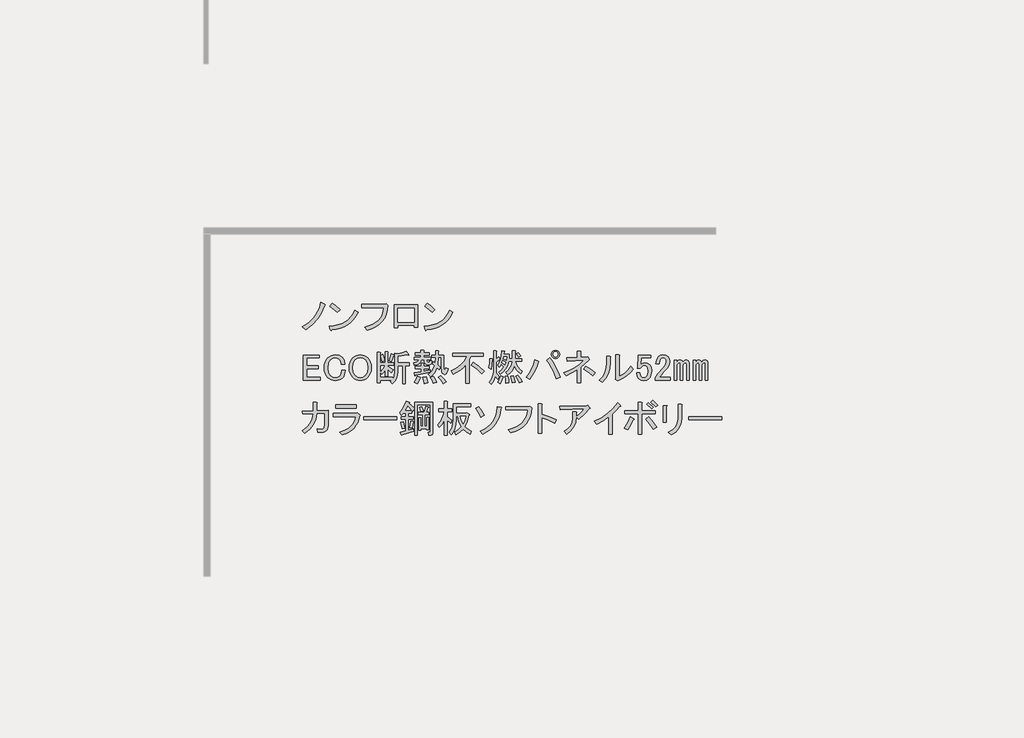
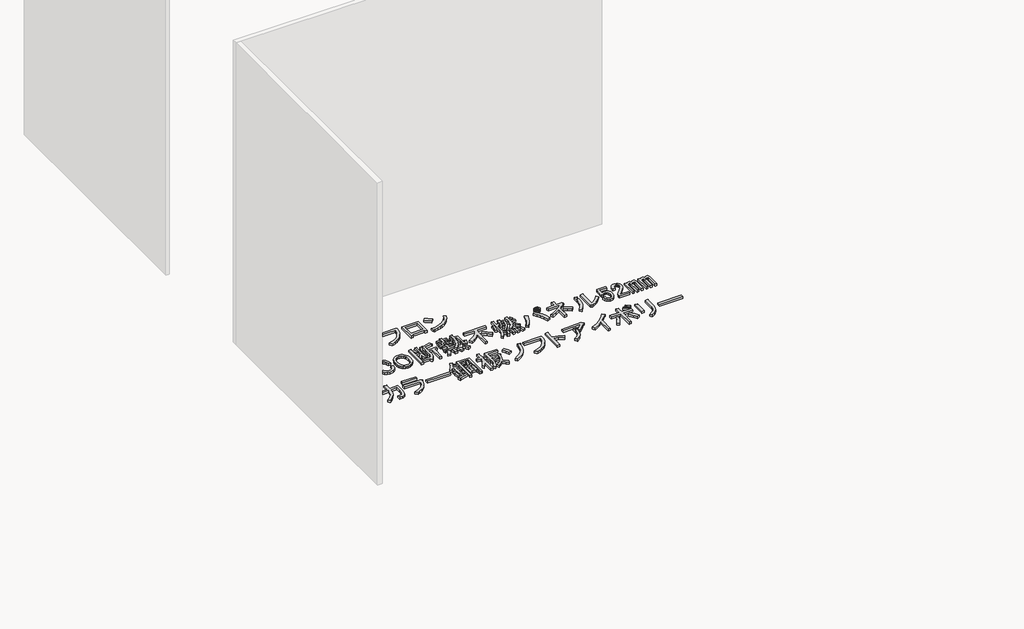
# One storey, part 93 of 117: 1 proxy.
"""IFC4 building model written with IfcOpenShell, lengths in millimetres."""

from ifc_helpers import new_model, si_unit, frame, origin, place, context, project, spatial, polyline, outline, extrude, element, save

model = new_model("IFC4")

# Units and contexts
model_context = context("Model", 3, world=origin())
ifc_project = project(units=[si_unit("LENGTHUNIT", "METRE", prefix="MILLI")], contexts=[model_context])

# Site, building, storey
site = spatial("IfcSite", under=ifc_project)
building = spatial("IfcBuilding", under=site)
storey = spatial("IfcBuildingStorey", under=building, Name="レベル 1", Elevation=500.0)

# Proxy
placement = place(None, origin())
element("IfcBuildingElementProxy", 1, Name="200㎜\u3000MS Pゴシック", ObjectType="200㎜\u3000MS Pゴシック", at=placement, inside=storey, context=model_context, shape_type="SweptSolid", body=[
    extrude(outline(polyline([(24944.6706985, 7391.9503118), (24919.0952502, 7332.1784775), (24890.646156, 7286.2001434), (24848.9782907, 7240.7965385), (24799.8389462, 7203.439142), (24772.2519457, 7225.2788507), (24819.9544673, 7255.7394971), (24859.6107805, 7294.2463519), (24876.9963381, 7318.1694538), (24892.3703435, 7346.2593423), (24905.7327969, 7378.5160173), (24917.0836981, 7414.9394788), (24948.1190736, 7401.1459786), (24951.2800841, 7396.5481452), (24944.6706985, 7391.9503118)])), frame((0.0, 0.0, 500.0), z_axis=(0.0, 0.0, 1.0), x_axis=(1.0, 0.0, 0.0)), (0.0, 0.0, 1.0), 25.0),
    extrude(outline(polyline([(25044.3977052, 7336.7763109), (24985.7753292, 7383.9041033), (25005.3161212, 7408.0427287), (25032.6157571, 7388.2145721), (25066.2374138, 7358.6160196), (25044.3977052, 7336.7763109)])), frame((0.0, 0.0, 500.0), z_axis=(0.0, 0.0, 1.0), x_axis=(1.0, 0.0, 0.0)), (0.0, 0.0, 1.0), 25.0),
    extrude(outline(polyline([(25206.4713328, 7336.7763109), (25189.947869, 7307.034076), (25170.8381239, 7281.0275808), (25149.1420975, 7258.7568252), (25124.8597898, 7240.2218093), (25097.9912008, 7225.422533), (25068.5363306, 7214.3589964), (25036.495179, 7207.0311994), (25001.8677461, 7203.439142), (24996.1204544, 7195.3929336), (24990.3731626, 7201.1402253), (24981.1774958, 7231.0261425), (25017.0082679, 7233.7022252), (25049.7857912, 7240.0062859), (25079.5100658, 7249.9383244), (25106.1810916, 7263.4983409), (25129.7988687, 7280.6863354), (25150.363397, 7301.5023077), (25167.8746766, 7325.946258), (25182.3327074, 7354.0181862), (25206.4713328, 7336.7763109)])), frame((0.0, 0.0, 500.0), z_axis=(0.0, 0.0, 1.0), x_axis=(1.0, 0.0, 0.0)), (0.0, 0.0, 1.0), 25.0),
    extrude(outline(polyline([(25257.2314136, 7221.8304757), (25291.014713, 7231.5110702), (25320.5234641, 7243.8857078), (25345.757667, 7258.9543884), (25366.7173217, 7276.717112), (25383.402428, 7297.1738786), (25395.8129862, 7320.3246882), (25403.9489961, 7346.1695409), (25407.8104577, 7374.7084365), (25235.3917049, 7374.7084365), (25235.3917049, 7399.9965202), (25410.1093744, 7399.9965202), (25426.2017914, 7403.4448953), (25438.8458332, 7391.9503118), (25435.325617, 7355.4550091), (25427.0638851, 7322.4080815), (25414.0606375, 7292.8095289), (25396.3158742, 7266.6593514), (25373.8295952, 7243.957549), (25346.6018005, 7224.7041216), (25314.6324901, 7208.8990692), (25277.921664, 7196.5423919), (25257.2314136, 7221.8304757)])), frame((0.0, 0.0, 500.0), z_axis=(0.0, 0.0, 1.0), x_axis=(1.0, 0.0, 0.0)), (0.0, 0.0, 1.0), 25.0),
    extrude(outline(polyline([(25671.955987, 7222.979934), (25645.5184449, 7222.979934), (25645.5184449, 7235.6239759), (25517.9285679, 7235.6239759), (25517.9285679, 7217.2326423), (25491.4910258, 7217.2326423), (25491.4910258, 7396.5481452), (25671.955987, 7396.5481452), (25671.955987, 7222.979934)]), holes=[polyline([(25517.9285679, 7371.2600614), (25517.9285679, 7260.9120596), (25645.5184449, 7260.9120596), (25645.5184449, 7371.2600614), (25517.9285679, 7371.2600614)])]), frame((0.0, 0.0, 500.0), z_axis=(0.0, 0.0, 1.0), x_axis=(1.0, 0.0, 0.0)), (0.0, 0.0, 1.0), 25.0),
    extrude(outline(polyline([(25948.0099049, 7336.7763109), (25931.4864411, 7307.034076), (25912.376696, 7281.0275808), (25890.6806696, 7258.7568252), (25866.3983619, 7240.2218093), (25839.5297729, 7225.422533), (25810.0749026, 7214.3589964), (25778.0337511, 7207.0311994), (25743.4063182, 7203.439142), (25737.6590264, 7195.3929336), (25731.9117347, 7201.1402253), (25722.7160679, 7231.0261425), (25758.5468399, 7233.7022252), (25791.3243633, 7240.0062859), (25821.0486378, 7249.9383244), (25847.7196637, 7263.4983409), (25871.3374407, 7280.6863354), (25891.9019691, 7301.5023077), (25909.4132486, 7325.946258), (25923.8712795, 7354.0181862), (25948.0099049, 7336.7763109)])), frame((0.0, 0.0, 500.0), z_axis=(0.0, 0.0, 1.0), x_axis=(1.0, 0.0, 0.0)), (0.0, 0.0, 1.0), 25.0),
    extrude(outline(polyline([(25785.9362772, 7336.7763109), (25727.3139013, 7383.9041033), (25746.8546933, 7408.0427287), (25774.1543291, 7388.2145721), (25807.7759859, 7358.6160196), (25785.9362772, 7336.7763109)])), frame((0.0, 0.0, 500.0), z_axis=(0.0, 0.0, 1.0), x_axis=(1.0, 0.0, 0.0)), (0.0, 0.0, 1.0), 25.0),
    extrude(outline(polyline([(24777.9992375, 7003.4448953), (24904.4396562, 7003.4448953), (24904.4396562, 6981.6051866), (24804.4367796, 6981.6051866), (24804.4367796, 6920.683894), (24897.5429061, 6920.683894), (24897.5429061, 6898.8441853), (24804.4367796, 6898.8441853), (24804.4367796, 6828.7272258), (24910.186948, 6828.7272258), (24910.186948, 6806.8875171), (24777.9992375, 6806.8875171), (24777.9992375, 7003.4448953)])), frame((0.0, 0.0, 500.0), z_axis=(0.0, 0.0, 1.0), x_axis=(1.0, 0.0, 0.0)), (0.0, 0.0, 1.0), 25.0),
    extrude(outline(polyline([(24942.2798252, 6904.591477), (24944.0758538, 6928.514579), (24949.4639399, 6949.7077173), (24958.4440832, 6968.1708921), (24971.016284, 6983.9041033), (24996.0170031, 7000.2838848), (25027.3397432, 7005.743812), (25058.0877541, 7000.858614), (25081.3642858, 6986.20302), (25097.1693381, 6962.6391238), (25103.2039944, 6933.3279358), (25075.616994, 6933.3279358), (25070.731796, 6954.5929153), (25060.6740354, 6970.1106031), (25045.4437123, 6980.4557283), (25027.3397432, 6983.9041033), (25007.7989512, 6979.8809991), (24990.5570759, 6967.8116864), (24981.5050914, 6956.1015794), (24975.0393882, 6941.6615089), (24969.8668256, 6904.591477), (24975.0393882, 6867.5214452), (24981.5050914, 6853.0813746), (24990.5570759, 6841.3712677), (25007.2242221, 6830.1640487), (25027.3397432, 6826.4283091), (25047.742629, 6829.5893196), (25062.9729521, 6839.072351), (25075.0422648, 6858.6131429), (25079.0653691, 6885.050685), (25106.6523695, 6885.050685), (25100.3303486, 6850.2795699), (25093.2899162, 6836.1268639), (25083.6632025, 6824.1293924), (25072.8151893, 6815.5802959), (25059.8119417, 6809.4737984), (25027.3397432, 6804.5886004), (24996.0170031, 6810.0485276), (24971.016284, 6826.4283091), (24958.4440832, 6842.0896791), (24949.4639399, 6860.3373305), (24944.0758538, 6881.1712631), (24942.2798252, 6904.591477)])), frame((0.0, 0.0, 500.0), z_axis=(0.0, 0.0, 1.0), x_axis=(1.0, 0.0, 0.0)), (0.0, 0.0, 1.0), 25.0),
    extrude(outline(polyline([(25137.6417667, 6905.7409354), (25139.3659542, 6928.5864201), (25144.5385168, 6948.8456236), (25153.1594544, 6966.5185457), (25165.2287671, 6981.6051866), (25177.9446501, 6992.1658352), (25191.9536738, 6999.7091557), (25207.2558381, 7004.2351479), (25223.8511431, 7005.743812), (25240.446448, 7004.2351479), (25255.7486123, 6999.7091557), (25269.757636, 6992.1658352), (25282.473519, 6981.6051866), (25294.5428317, 6966.5185457), (25303.1637694, 6948.8456236), (25308.336332, 6928.5864201), (25310.0605195, 6905.7409354), (25308.336332, 6882.8954506), (25303.1637694, 6862.6362472), (25294.5428317, 6844.963325), (25282.473519, 6829.8766841), (25269.757636, 6819.3160355), (25255.7486123, 6811.7727151), (25240.446448, 6807.2467228), (25223.8511431, 6805.7380587), (25207.2558381, 6807.2467228), (25191.9536738, 6811.7727151), (25177.9446501, 6819.3160355), (25165.2287671, 6829.8766841), (25153.1594544, 6844.963325), (25144.5385168, 6862.6362472), (25139.3659542, 6882.8954506), (25137.6417667, 6905.7409354)]), holes=[polyline([(25223.8511431, 6983.9041033), (25203.1608927, 6979.5936345), (25184.7695591, 6966.662228), (25176.2204626, 6955.5268502), (25170.1139651, 6941.6615089), (25165.2287671, 6905.7409354), (25170.1139651, 6869.8203619), (25176.2204626, 6855.9550205), (25184.7695591, 6844.8196427), (25203.1608927, 6831.8882363), (25223.8511431, 6827.5777674), (25244.5413934, 6831.8882363), (25262.932727, 6844.8196427), (25271.4818235, 6855.9550205), (25277.588321, 6869.8203619), (25282.473519, 6905.7409354), (25277.588321, 6941.6615089), (25271.4818235, 6955.5268502), (25262.932727, 6966.662228), (25244.5413934, 6979.5936345), (25223.8511431, 6983.9041033)])]), frame((0.0, 0.0, 500.0), z_axis=(0.0, 0.0, 1.0), x_axis=(1.0, 0.0, 0.0)), (0.0, 0.0, 1.0), 25.0),
    extrude(outline(polyline([(25448.8691101, 6959.7654779), (25466.1109854, 7012.6405621), (25486.8012357, 7006.8932704), (25488.5254232, 7003.7322599), (25484.502319, 7001.1459786), (25467.2604437, 6952.8687278), (25448.8691101, 6959.7654779)])), frame((0.0, 0.0, 500.0), z_axis=(0.0, 0.0, 1.0), x_axis=(1.0, 0.0, 0.0)), (0.0, 0.0, 1.0), 25.0),
    extrude(outline(polyline([(25602.8965292, 7008.0427287), (25601.1723417, 7003.4448953), (25593.7008624, 7005.743812), (25516.6871528, 6993.0997701), (25516.6871528, 6943.673061), (25608.643821, 6943.673061), (25608.643821, 6921.8333523), (25577.6084455, 6921.8333523), (25577.6084455, 6781.5994334), (25554.6192785, 6781.5994334), (25554.6192785, 6921.8333523), (25516.6871528, 6921.8333523), (25516.6871528, 6872.4066432), (25514.1008716, 6844.6041193), (25506.3420277, 6819.8189236), (25493.4106212, 6798.051056), (25475.3066522, 6779.3005167), (25458.0647769, 6798.8413086), (25468.4099021, 6808.0369755), (25378.7521506, 6808.0369755), (25378.7521506, 6786.1972668), (25355.7629836, 6786.1972668), (25355.7629836, 7025.284604), (25377.6026922, 7025.284604), (25382.4878902, 7022.9856873), (25378.7521506, 7018.3878539), (25378.7521506, 6942.5236026), (25421.2821096, 6942.5236026), (25421.2821096, 7029.8824374), (25439.6734433, 7029.8824374), (25444.5586413, 7027.5835207), (25440.8229016, 7022.9856873), (25440.8229016, 6942.5236026), (25484.502319, 6942.5236026), (25484.502319, 6924.132269), (25440.8229016, 6924.132269), (25440.8229016, 6914.9366022), (25481.0539439, 6888.4990601), (25467.2604437, 6866.6593514), (25440.8229016, 6893.0968935), (25440.8229016, 6840.2218093), (25421.2821096, 6840.2218093), (25421.2821096, 6888.4990601), (25408.0633386, 6868.6709035), (25393.6951092, 6852.8658512), (25381.0510673, 6871.2571848), (25402.890776, 6895.3958102), (25420.1326513, 6924.132269), (25378.7521506, 6924.132269), (25378.7521506, 6829.8766841), (25476.4561105, 6829.8766841), (25476.4561105, 6816.0831839), (25489.387517, 6840.2218093), (25493.6979858, 6873.5561015), (25493.6979858, 7018.3878539), (25515.5376945, 7012.6405621), (25551.7456326, 7020.1120414), (25582.2062789, 7033.3308125), (25602.8965292, 7008.0427287)])), frame((0.0, 0.0, 500.0), z_axis=(0.0, 0.0, 1.0), x_axis=(1.0, 0.0, 0.0)), (0.0, 0.0, 1.0), 25.0),
    extrude(outline(polyline([(25394.8445675, 6951.7192695), (25382.2005257, 7002.2954369), (25401.7413176, 7009.1921871), (25409.5001615, 6985.0535617), (25414.3853595, 6958.6160196), (25394.8445675, 6951.7192695)])), frame((0.0, 0.0, 500.0), z_axis=(0.0, 0.0, 1.0), x_axis=(1.0, 0.0, 0.0)), (0.0, 0.0, 1.0), 25.0),
    extrude(outline(polyline([(25738.5326148, 6835.6239759), (25748.5903754, 6808.32434), (25753.4755734, 6786.1972668), (25724.7391146, 6780.449975), (25722.1528333, 6802.0023191), (25714.3939894, 6832.1756008), (25738.5326148, 6835.6239759)])), frame((0.0, 0.0, 500.0), z_axis=(0.0, 0.0, 1.0), x_axis=(1.0, 0.0, 0.0)), (0.0, 0.0, 1.0), 25.0),
    extrude(outline(polyline([(25794.856074, 6782.7488917), (25786.522501, 6807.4622463), (25773.0163654, 6828.7272258), (25793.7066157, 6836.7734343), (25810.6611264, 6815.2210902), (25822.4430745, 6791.9445585), (25794.856074, 6782.7488917)])), frame((0.0, 0.0, 500.0), z_axis=(0.0, 0.0, 1.0), x_axis=(1.0, 0.0, 0.0)), (0.0, 0.0, 1.0), 25.0),
    extrude(outline(polyline([(25693.7037391, 6831.0261425), (25697.1521141, 6826.1409445), (25691.4048224, 6822.979934), (25681.6344264, 6797.4044857), (25670.714572, 6778.1510583), (25647.725405, 6789.6456418), (25660.3694469, 6813.209538), (25670.714572, 6840.2218093), (25693.7037391, 6831.0261425)])), frame((0.0, 0.0, 500.0), z_axis=(0.0, 0.0, 1.0), x_axis=(1.0, 0.0, 0.0)), (0.0, 0.0, 1.0), 25.0),
    extrude(outline(polyline([(25725.8885729, 6967.8116864), (25700.6004892, 6967.8116864), (25696.0026558, 6950.3542877), (25685.6575306, 6937.0636755), (25669.5651137, 6927.9398498), (25647.725405, 6922.9828107), (25643.1275716, 6942.5236026), (25668.4156553, 6951.1445403), (25675.8871346, 6958.4723373), (25679.9102388, 6967.8116864), (25644.2770299, 6967.8116864), (25644.2770299, 6986.20302), (25698.3015725, 6986.20302), (25698.3015725, 7003.4448953), (25654.6221551, 7003.4448953), (25654.6221551, 7021.8362289), (25698.3015725, 7021.8362289), (25698.3015725, 7040.2275626), (25720.1412812, 7040.2275626), (25725.0264792, 7037.9286459), (25721.2907395, 7033.3308125), (25721.2907395, 7021.8362289), (25763.8206985, 7021.8362289), (25763.8206985, 7003.4448953), (25721.2907395, 7003.4448953), (25721.2907395, 6986.20302), (25774.1658237, 6986.20302), (25774.1658237, 6967.8116864), (25745.4293649, 6967.8116864), (25745.4293649, 6955.1676445), (25746.8661878, 6949.9950819), (25751.1766567, 6948.2708944), (25761.5217818, 6948.2708944), (25765.2575215, 6951.4319049), (25764.9701569, 6960.9149363), (25784.5109489, 6958.6160196), (25781.637303, 6937.0636755), (25776.3210581, 6931.6755894), (25768.4185319, 6929.8795608), (25744.2799066, 6929.8795608), (25730.4864063, 6934.7647588), (25725.8885729, 6949.4203528), (25725.8885729, 6967.8116864)])), frame((0.0, 0.0, 500.0), z_axis=(0.0, 0.0, 1.0), x_axis=(1.0, 0.0, 0.0)), (0.0, 0.0, 1.0), 25.0),
    extrude(outline(polyline([(25856.9268251, 6985.0535617), (25835.0871164, 6985.0535617), (25830.489283, 6927.5806441), (25850.0300749, 6909.1893104), (25839.6849498, 6887.3496017), (25823.5925328, 6903.4420187), (25804.3391054, 6865.7972576), (25774.1658237, 6833.3250592), (25756.9239484, 6854.0153095), (25772.0105893, 6865.9409399), (25785.085678, 6881.0275808), (25796.1492147, 6899.2752321), (25805.2011992, 6920.683894), (25787.9593239, 6935.6268525), (25796.0055324, 6952.8687278), (25809.7990326, 6942.5236026), (25812.0979493, 6985.0535617), (25784.5109489, 6985.0535617), (25784.5109489, 7003.4448953), (25812.0979493, 7003.4448953), (25812.0979493, 7037.9286459), (25833.937658, 7037.9286459), (25838.822856, 7035.6297292), (25835.0871164, 7031.0318957), (25835.0871164, 7003.4448953), (25876.467617, 7003.4448953), (25876.467617, 6906.8903937), (25879.9159921, 6882.7517683), (25883.1488437, 6880.7402162), (25885.9506484, 6883.9012267), (25890.2611173, 6905.7409354), (25909.8019092, 6898.8441853), (25905.275917, 6872.0474374), (25897.445232, 6856.0268616), (25886.3098542, 6850.7824579), (25871.8697836, 6856.3142262), (25865.3322393, 6863.6420232), (25860.6625647, 6875.280289), (25856.9268251, 6911.4882271), (25856.9268251, 6985.0535617)])), frame((0.0, 0.0, 500.0), z_axis=(0.0, 0.0, 1.0), x_axis=(1.0, 0.0, 0.0)), (0.0, 0.0, 1.0), 25.0),
    extrude(outline(polyline([(25655.7716134, 6845.9691011), (25653.7600613, 6841.0839031), (25650.0243217, 6842.520726), (25644.2770299, 6866.6593514), (25699.4510308, 6874.7055599), (25699.4510308, 6897.6947269), (25655.7716134, 6897.6947269), (25655.7716134, 6916.0860605), (25699.4510308, 6916.0860605), (25699.4510308, 6939.0752276), (25717.8423645, 6939.0752276), (25722.7275625, 6936.7763109), (25718.9918228, 6932.1784775), (25718.9918228, 6916.0860605), (25763.8206985, 6916.0860605), (25763.8206985, 6897.6947269), (25718.9918228, 6897.6947269), (25718.9918228, 6878.1539349), (25769.5679903, 6887.3496017), (25769.5679903, 6871.2571848), (25655.7716134, 6845.9691011)])), frame((0.0, 0.0, 500.0), z_axis=(0.0, 0.0, 1.0), x_axis=(1.0, 0.0, 0.0)), (0.0, 0.0, 1.0), 25.0),
    extrude(outline(polyline([(25853.47845, 6841.3712677), (25878.1918046, 6820.1062881), (25897.1578674, 6795.3929336), (25870.7203253, 6780.449975), (25851.4668979, 6810.0485276), (25832.7881997, 6829.8766841), (25853.47845, 6841.3712677)])), frame((0.0, 0.0, 500.0), z_axis=(0.0, 0.0, 1.0), x_axis=(1.0, 0.0, 0.0)), (0.0, 0.0, 1.0), 25.0),
    extrude(outline(polyline([(26171.8784135, 6857.4636846), (26132.7968295, 6895.6831748), (26091.4163289, 6925.2817274), (26107.5087458, 6945.9719777), (26151.1881632, 6917.8102481), (26192.5686638, 6879.3033933), (26171.8784135, 6857.4636846)])), frame((0.0, 0.0, 500.0), z_axis=(0.0, 0.0, 1.0), x_axis=(1.0, 0.0, 0.0)), (0.0, 0.0, 1.0), 25.0),
    extrude(outline(polyline([(25945.4351182, 7018.3878539), (26186.8213721, 7018.3878539), (26186.8213721, 6993.0997701), (26086.8184955, 6993.0997701), (26076.4733703, 6968.9611447), (26076.4733703, 6782.7488917), (26050.0358282, 6782.7488917), (26050.0358282, 6929.8795608), (26029.2018956, 6906.6030291), (26005.7816816, 6886.2001434), (25979.7751864, 6868.6709035), (25951.1824099, 6854.0153095), (25935.089993, 6880.4528516), (25974.674465, 6900.8557374), (26008.3679629, 6926.4311857), (26036.1704868, 6957.1791966), (26058.0820367, 6993.0997701), (25945.4351182, 6993.0997701), (25945.4351182, 7018.3878539)])), frame((0.0, 0.0, 500.0), z_axis=(0.0, 0.0, 1.0), x_axis=(1.0, 0.0, 0.0)), (0.0, 0.0, 1.0), 25.0),
    extrude(outline(polyline([(26359.2401249, 6783.8983501), (26359.8148541, 6810.9106213), (26356.9412082, 6839.072351), (26376.4820002, 6840.2218093), (26382.8040211, 6814.0716318), (26383.3787503, 6786.1972668), (26359.2401249, 6783.8983501)])), frame((0.0, 0.0, 500.0), z_axis=(0.0, 0.0, 1.0), x_axis=(1.0, 0.0, 0.0)), (0.0, 0.0, 1.0), 25.0),
    extrude(outline(polyline([(26339.6993329, 6835.6239759), (26331.0783953, 6805.1633296), (26316.7101659, 6778.1510583), (26297.1693739, 6790.7951002), (26311.2502387, 6815.5084547), (26321.3079993, 6843.6701844), (26339.6993329, 6835.6239759)])), frame((0.0, 0.0, 500.0), z_axis=(0.0, 0.0, 1.0), x_axis=(1.0, 0.0, 0.0)), (0.0, 0.0, 1.0), 25.0),
    extrude(outline(polyline([(26254.6394149, 6973.5589781), (26259.2372483, 6971.2600614), (26254.6394149, 6966.662228), (26253.4899565, 6927.0059149), (26247.7426647, 6893.0968935), (26229.3513311, 6905.7409354), (26235.0986229, 6940.2246859), (26236.2480812, 6977.0073532), (26254.6394149, 6973.5589781)])), frame((0.0, 0.0, 500.0), z_axis=(0.0, 0.0, 1.0), x_axis=(1.0, 0.0, 0.0)), (0.0, 0.0, 1.0), 25.0),
    extrude(outline(polyline([(26306.3650407, 6991.9503118), (26315.5607075, 6974.7084365), (26316.9975305, 6968.6737801), (26312.1123325, 6968.9611447), (26285.6747904, 6948.2708944), (26285.6747904, 6864.3604347), (26299.4682906, 6852.0037574), (26310.9628741, 6835.6239759), (26298.3188322, 6814.9337256), (26279.9274986, 6840.2218093), (26268.1455505, 6804.3012358), (26246.5932064, 6774.7026832), (26231.6502478, 6793.0940169), (26246.7368887, 6811.8445562), (26257.5130607, 6832.4629654), (26263.978764, 6854.9492444), (26266.1339984, 6879.3033933), (26266.1339984, 7036.7791875), (26284.525332, 7036.7791875), (26289.41053, 7034.4802708), (26285.6747904, 7029.8824374), (26285.6747904, 6971.2600614), (26306.3650407, 6991.9503118)])), frame((0.0, 0.0, 500.0), z_axis=(0.0, 0.0, 1.0), x_axis=(1.0, 0.0, 0.0)), (0.0, 0.0, 1.0), 25.0),
    extrude(outline(polyline([(26456.9440848, 7022.9856873), (26478.7837935, 6998.8470619), (26461.5419182, 6987.3524784), (26454.9325327, 6998.8470619), (26442.0011262, 7012.6405621), (26456.9440848, 7022.9856873)])), frame((0.0, 0.0, 500.0), z_axis=(0.0, 0.0, 1.0), x_axis=(1.0, 0.0, 0.0)), (0.0, 0.0, 1.0), 25.0),
    extrude(outline(polyline([(26467.28921, 6786.1972668), (26454.0704389, 6814.3589964), (26437.4032928, 6839.072351), (26455.7946265, 6847.1185594), (26474.7606893, 6824.1293924), (26490.278377, 6796.5423919), (26467.28921, 6786.1972668)])), frame((0.0, 0.0, 500.0), z_axis=(0.0, 0.0, 1.0), x_axis=(1.0, 0.0, 0.0)), (0.0, 0.0, 1.0), 25.0),
    extrude(outline(polyline([(26417.8625008, 6841.3712677), (26436.2538345, 6791.9445585), (26412.1152091, 6787.3467251), (26398.3217089, 6837.9228926), (26417.8625008, 6841.3712677)])), frame((0.0, 0.0, 500.0), z_axis=(0.0, 0.0, 1.0), x_axis=(1.0, 0.0, 0.0)), (0.0, 0.0, 1.0), 25.0),
    extrude(outline(polyline([(26478.7837935, 6856.3142262), (26448.0357826, 6886.7748726), (26427.0581677, 6920.683894), (26418.6527535, 6898.5568207), (26407.2300111, 6879.3033933), (26392.7899405, 6862.9236118), (26375.3325418, 6849.4174761), (26361.5390416, 6867.8088098), (26382.3729742, 6886.7030314), (26397.7469797, 6907.7524875), (26407.661058, 6930.957178), (26412.1152091, 6956.3171029), (26383.3787503, 6956.3171029), (26375.404383, 6925.7127742), (26361.8264062, 6898.2694561), (26342.6448199, 6873.9871484), (26317.8596242, 6852.8658512), (26305.2155823, 6868.9582681), (26331.0783953, 6890.5106122), (26346.596083, 6911.4882271), (26324.7563743, 6931.0290191), (26310.9628741, 6910.3387688), (26297.1693739, 6925.2817274), (26309.5978923, 6944.3196313), (26319.2964472, 6969.2485093), (26326.2650384, 7000.0683614), (26330.5036661, 7036.7791875), (26351.1939164, 7034.4802708), (26354.6422915, 7031.8939895), (26348.8949997, 7028.732979), (26346.596083, 7010.3416454), (26390.2755004, 7010.3416454), (26386.8271253, 6974.7084365), (26412.1152091, 6974.7084365), (26412.1152091, 7036.7791875), (26433.9549178, 7036.7791875), (26438.8401158, 7034.4802708), (26435.1043761, 7029.8824374), (26435.1043761, 6974.7084365), (26484.5310853, 6974.7084365), (26484.5310853, 6956.3171029), (26435.1043761, 6956.3171029), (26441.6419205, 6934.5492353), (26453.2083452, 6914.0745084), (26469.8036501, 6894.8929222), (26491.4278354, 6877.0044766), (26478.7837935, 6856.3142262)]), holes=[polyline([(26354.6422915, 6926.4311857), (26361.5390416, 6945.9719777), (26336.2509579, 6962.0643946), (26330.5036661, 6944.8225193), (26354.6422915, 6926.4311857)]), polyline([(26344.2971663, 6991.9503118), (26340.8487913, 6975.8578948), (26366.136875, 6962.0643946), (26370.7347084, 6991.9503118), (26344.2971663, 6991.9503118)])]), frame((0.0, 0.0, 500.0), z_axis=(0.0, 0.0, 1.0), x_axis=(1.0, 0.0, 0.0)), (0.0, 0.0, 1.0), 25.0),
    extrude(outline(polyline([(26704.0776305, 6982.754645), (26730.730696, 6946.0438188), (26753.2169751, 6908.3272167), (26771.5364675, 6869.6048384), (26785.6891735, 6829.8766841), (26754.653798, 6819.531559), (26739.2079514, 6862.6362472), (26721.6068704, 6901.143102), (26701.850555, 6935.0521234), (26679.9390051, 6964.3633113), (26704.0776305, 6982.754645)])), frame((0.0, 0.0, 500.0), z_axis=(0.0, 0.0, 1.0), x_axis=(1.0, 0.0, 0.0)), (0.0, 0.0, 1.0), 25.0),
    extrude(outline(polyline([(26616.7187958, 6956.3171029), (26620.7419, 6950.8571757), (26614.419879, 6945.9719777), (26602.4942486, 6910.5542922), (26587.4076078, 6876.717112), (26569.1599564, 6844.460437), (26547.7512946, 6813.7842672), (26521.3137525, 6831.0261425), (26544.518443, 6862.4925649), (26563.556347, 6895.9705394), (26578.4274644, 6931.460066), (26589.1317953, 6968.9611447), (26616.7187958, 6956.3171029)])), frame((0.0, 0.0, 500.0), z_axis=(0.0, 0.0, 1.0), x_axis=(1.0, 0.0, 0.0)), (0.0, 0.0, 1.0), 25.0),
    extrude(outline(polyline([(26750.0559646, 6977.0073532), (26737.4119227, 6979.3062699), (26727.0667975, 6986.20302), (26720.1700474, 6996.5481452), (26717.8711307, 7009.1921871), (26720.1700474, 7021.8362289), (26727.0667975, 7032.1813541), (26737.4119227, 7039.0781042), (26750.0559646, 7041.3770209), (26762.7000065, 7039.0781042), (26773.0451316, 7032.1813541), (26779.9418817, 7021.8362289), (26782.2407984, 7009.1921871), (26779.9418817, 6996.5481452), (26773.0451316, 6986.20302), (26762.7000065, 6979.3062699), (26750.0559646, 6977.0073532)]), holes=[polyline([(26750.0559646, 6988.5019367), (26758.3895376, 6989.9387597), (26764.9989232, 6994.2492285), (26769.309392, 7000.858614), (26770.7462149, 7009.1921871), (26769.309392, 7017.5257601), (26764.9989232, 7024.1351456), (26758.3895376, 7028.4456145), (26750.0559646, 7029.8824374), (26741.7223915, 7028.4456145), (26735.113006, 7024.1351456), (26730.8025372, 7017.5257601), (26729.3657143, 7009.1921871), (26730.8025372, 7000.858614), (26735.113006, 6994.2492285), (26741.7223915, 6989.9387597), (26750.0559646, 6988.5019367)])]), frame((0.0, 0.0, 500.0), z_axis=(0.0, 0.0, 1.0), x_axis=(1.0, 0.0, 0.0)), (0.0, 0.0, 1.0), 25.0),
    extrude(outline(polyline([(26993.7411352, 6987.3524784), (27000.6378853, 6989.6513951), (27013.2819272, 6972.4095198), (27014.4313856, 6966.3748634), (27008.6840938, 6964.3633113), (26945.4638844, 6908.0398521), (26945.4638844, 6787.3467251), (26919.0263423, 6787.3467251), (26919.0263423, 6889.6485184), (26878.7953, 6865.5098931), (26833.9664243, 6843.6701844), (26814.4256323, 6864.3604347), (26859.9729195, 6883.8293855), (26901.2097379, 6906.6030291), (26938.1360874, 6932.6813655), (26970.7519682, 6962.0643946), (26840.8631744, 6956.3171029), (26837.4147993, 6981.6051866), (26919.0263423, 6983.9041033), (26919.0263423, 7035.6297292), (26942.0155094, 7035.6297292), (26948.0501657, 7032.1813541), (26945.4638844, 7026.4340623), (26945.4638844, 6985.0535617), (26993.7411352, 6987.3524784)])), frame((0.0, 0.0, 500.0), z_axis=(0.0, 0.0, 1.0), x_axis=(1.0, 0.0, 0.0)), (0.0, 0.0, 1.0), 25.0),
    extrude(outline(polyline([(27039.7194693, 6843.6701844), (27002.6494375, 6872.9813723), (26969.6025098, 6894.2463519), (26986.8443851, 6916.0860605), (27025.6386045, 6892.8095289), (27059.2602613, 6866.6593514), (27039.7194693, 6843.6701844)])), frame((0.0, 0.0, 500.0), z_axis=(0.0, 0.0, 1.0), x_axis=(1.0, 0.0, 0.0)), (0.0, 0.0, 1.0), 25.0),
    extrude(outline(polyline([(27246.7139293, 6836.7734343), (27271.4991251, 6848.9864292), (27295.2785447, 6866.0846222), (27318.0521883, 6888.0680132), (27339.8200559, 6914.9366022), (27355.9124728, 6893.0968935), (27332.6359412, 6865.2943696), (27306.4857636, 6841.6586322), (27277.4619403, 6822.1896814), (27245.564471, 6806.8875171), (27236.3688042, 6802.2896837), (27217.9774705, 6816.0831839), (27220.2763872, 6821.8304757), (27220.2763872, 7006.8932704), (27244.4150126, 7006.8932704), (27250.1623044, 7003.4448953), (27246.7139293, 6997.6976035), (27246.7139293, 6836.7734343)])), frame((0.0, 0.0, 500.0), z_axis=(0.0, 0.0, 1.0), x_axis=(1.0, 0.0, 0.0)), (0.0, 0.0, 1.0), 25.0),
    extrude(outline(polyline([(27092.6865102, 6805.7380587), (27117.8309116, 6834.9774056), (27135.7911984, 6867.5214452), (27146.5673704, 6903.3701775), (27150.1594278, 6942.5236026), (27150.1594278, 6994.2492285), (27174.2980532, 6994.2492285), (27180.0453449, 6990.8008534), (27176.5969699, 6985.0535617), (27176.5969699, 6943.673061), (27172.7893891, 6897.9102504), (27161.3666467, 6857.17632), (27142.3287427, 6821.4712699), (27115.6756772, 6790.7951002), (27092.6865102, 6805.7380587)])), frame((0.0, 0.0, 500.0), z_axis=(0.0, 0.0, 1.0), x_axis=(1.0, 0.0, 0.0)), (0.0, 0.0, 1.0), 25.0),
    extrude(outline(polyline([(27397.2929735, 7003.4448953), (27496.1463917, 7003.4448953), (27496.1463917, 6981.6051866), (27419.1326821, 6981.6051866), (27419.1326821, 6978.1568116), (27415.6843071, 6935.6268525), (27414.5348487, 6928.7301024), (27430.0525365, 6939.0752276), (27446.7196826, 6942.5236026), (27467.6972975, 6938.787863), (27484.6518082, 6927.5806441), (27496.7211209, 6907.7524875), (27500.7442251, 6880.4528516), (27495.5716626, 6845.9691011), (27489.1059593, 6832.1756008), (27480.0539748, 6820.6810173), (27461.9500058, 6808.6117046), (27439.8229325, 6804.5886004), (27418.8453176, 6808.32434), (27401.8908069, 6819.531559), (27389.8214942, 6838.2102572), (27383.4994732, 6864.3604347), (27409.9370153, 6864.3604347), (27413.9601196, 6845.6817365), (27421.4315989, 6833.3250592), (27429.1904427, 6828.1524966), (27438.6734741, 6826.4283091), (27451.0301514, 6828.4398612), (27460.5131828, 6834.4745175), (27469.9962142, 6851.4290282), (27473.1572247, 6877.0044766), (27470.5709434, 6901.143102), (27462.8120995, 6916.0860605), (27455.3406202, 6921.2586231), (27446.7196826, 6922.9828107), (27433.7882761, 6920.3965294), (27422.5810572, 6912.6376855), (27413.3853904, 6902.2925603), (27390.3962233, 6902.2925603), (27391.5456817, 6910.3387688), (27397.2929735, 6998.8470619), (27397.2929735, 7003.4448953)])), frame((0.0, 0.0, 500.0), z_axis=(0.0, 0.0, 1.0), x_axis=(1.0, 0.0, 0.0)), (0.0, 0.0, 1.0), 25.0),
    extrude(outline(polyline([(27535.2279757, 6936.7763109), (27539.8258091, 6968.099051), (27553.6193093, 6990.8008534), (27569.9990909, 7002.0080724), (27589.2525182, 7005.743812), (27611.9543207, 7002.0080724), (27629.4835606, 6990.8008534), (27640.6907795, 6974.1337073), (27644.4265191, 6954.0181862), (27640.1160503, 6928.1553732), (27627.1846439, 6905.7409354), (27593.8503517, 6867.8088098), (27575.459018, 6847.1185594), (27561.6655178, 6828.7272258), (27647.8748942, 6828.7272258), (27647.8748942, 6806.8875171), (27530.6301423, 6806.8875171), (27530.6301423, 6826.4283091), (27536.6647986, 6840.2218093), (27550.1709343, 6858.6131429), (27597.2987267, 6910.3387688), (27611.9543207, 6931.6037483), (27616.8395187, 6954.0181862), (27614.540602, 6966.662228), (27607.6438519, 6977.0073532), (27599.885008, 6982.1799158), (27590.4019766, 6983.9041033), (27581.781039, 6982.1799158), (27574.3095597, 6977.0073532), (27564.8265283, 6960.6275717), (27561.6655178, 6936.7763109), (27535.2279757, 6936.7763109)])), frame((0.0, 0.0, 500.0), z_axis=(0.0, 0.0, 1.0), x_axis=(1.0, 0.0, 0.0)), (0.0, 0.0, 1.0), 25.0),
    extrude(outline(polyline([(27919.1470653, 6966.662228), (27927.4806383, 6965.2254051), (27934.0900239, 6960.9149363), (27939.2625864, 6952.2939986), (27940.986774, 6940.2246859), (27940.986774, 6805.7380587), (27921.445982, 6805.7380587), (27921.445982, 6929.8795608), (27918.8597007, 6939.3625922), (27911.1008568, 6942.5236026), (27900.7557317, 6937.9257692), (27894.7210753, 6929.3048316), (27892.7095232, 6919.5344356), (27892.7095232, 6805.7380587), (27873.1687312, 6805.7380587), (27873.1687312, 6929.8795608), (27870.5824499, 6939.3625922), (27862.823606, 6942.5236026), (27852.4784809, 6937.9257692), (27846.4438245, 6929.3048316), (27844.4322724, 6919.5344356), (27844.4322724, 6805.7380587), (27824.8914804, 6805.7380587), (27824.8914804, 6963.213853), (27844.4322724, 6963.213853), (27844.4322724, 6945.9719777), (27856.5015851, 6961.4896654), (27869.7203561, 6966.662228), (27878.916023, 6965.2254051), (27885.8127731, 6960.9149363), (27892.7095232, 6947.121436), (27905.6409296, 6961.77703), (27919.1470653, 6966.662228)])), frame((0.0, 0.0, 500.0), z_axis=(0.0, 0.0, 1.0), x_axis=(1.0, 0.0, 0.0)), (0.0, 0.0, 1.0), 25.0),
    extrude(outline(polyline([(27697.3016033, 6805.7380587), (27677.7608114, 6805.7380587), (27677.7608114, 6963.213853), (27697.3016033, 6963.213853), (27697.3016033, 6945.9719777), (27709.370916, 6961.4896654), (27722.5896871, 6966.662228), (27731.7853539, 6965.2254051), (27738.682104, 6960.9149363), (27745.5788541, 6947.121436), (27758.5102606, 6961.77703), (27772.0163962, 6966.662228), (27780.3499693, 6965.2254051), (27786.9593548, 6960.9149363), (27792.1319174, 6952.2939986), (27793.8561049, 6940.2246859), (27793.8561049, 6805.7380587), (27774.3153129, 6805.7380587), (27774.3153129, 6929.8795608), (27771.7290316, 6939.3625922), (27763.9701878, 6942.5236026), (27753.6250626, 6937.9257692), (27747.5904062, 6929.3048316), (27745.5788541, 6919.5344356), (27745.5788541, 6805.7380587), (27726.0380621, 6805.7380587), (27726.0380621, 6929.8795608), (27723.4517808, 6939.3625922), (27715.692937, 6942.5236026), (27705.3478118, 6937.9257692), (27699.3131555, 6929.3048316), (27697.3016033, 6919.5344356), (27697.3016033, 6805.7380587)])), frame((0.0, 0.0, 500.0), z_axis=(0.0, 0.0, 1.0), x_axis=(1.0, 0.0, 0.0)), (0.0, 0.0, 1.0), 25.0),
    extrude(outline(polyline([(24948.1190736, 6548.2708944), (24882.5999475, 6545.9719777), (24874.3382156, 6499.706279), (24856.44977, 6458.6131429), (24828.9346107, 6422.6925694), (24791.7927377, 6391.9445585), (24772.2519457, 6411.4853505), (24807.2385843, 6439.7189213), (24832.8858738, 6471.5445494), (24849.1938142, 6506.9622349), (24856.1624054, 6545.9719777), (24774.5508624, 6543.673061), (24772.2519457, 6566.662228), (24857.3118638, 6568.9611447), (24857.3118638, 6633.3308125), (24881.4504892, 6633.3308125), (24888.3472393, 6629.8824374), (24883.7494059, 6624.1351456), (24883.7494059, 6568.9611447), (24974.5566157, 6572.4095198), (24974.5566157, 6501.143102), (24971.9703344, 6453.1532158), (24964.2114905, 6421.8304757), (24957.602105, 6411.7727151), (24948.1190736, 6404.5886004), (24935.7623963, 6400.2781316), (24920.5320731, 6398.8413086), (24892.9450727, 6398.8413086), (24889.4966976, 6427.5777674), (24919.3826148, 6425.2788507), (24933.4634796, 6428.1524966), (24941.2223235, 6436.7734343), (24946.3948861, 6462.061518), (24948.1190736, 6501.143102), (24948.1190736, 6548.2708944)])), frame((0.0, 0.0, 500.0), z_axis=(0.0, 0.0, 1.0), x_axis=(1.0, 0.0, 0.0)), (0.0, 0.0, 1.0), 25.0),
    extrude(outline(polyline([(25062.9729521, 6402.2896837), (25112.6151847, 6420.6091762), (25132.8564279, 6432.7323697), (25150.0444223, 6446.8311948), (25164.179168, 6462.9056515), (25175.2606649, 6480.9557397), (25183.2889131, 6500.9814594), (25188.2639125, 6522.9828107), (25013.546243, 6522.9828107), (25013.546243, 6548.2708944), (25189.4133709, 6548.2708944), (25199.758496, 6551.7192695), (25220.4487464, 6539.0752276), (25223.3223922, 6533.6153004), (25218.1498297, 6528.7301024), (25212.0253719, 6501.2508637), (25202.8476653, 6476.2860651), (25190.6167101, 6453.8357067), (25175.332506, 6433.8997884), (25156.9950533, 6416.4783102), (25135.6043517, 6401.5712722), (25111.1604015, 6389.1786744), (25083.6632025, 6379.3005167), (25062.9729521, 6402.2896837)])), frame((0.0, 0.0, 500.0), z_axis=(0.0, 0.0, 1.0), x_axis=(1.0, 0.0, 0.0)), (0.0, 0.0, 1.0), 25.0),
    extrude(outline(polyline([(25192.8617459, 6588.5019367), (25034.2364933, 6588.5019367), (25034.2364933, 6613.7900205), (25192.8617459, 6613.7900205), (25192.8617459, 6588.5019367)])), frame((0.0, 0.0, 500.0), z_axis=(0.0, 0.0, 1.0), x_axis=(1.0, 0.0, 0.0)), (0.0, 0.0, 1.0), 25.0),
    extrude(outline(polyline([(25251.8979269, 6497.6947269), (25251.8979269, 6522.9828107), (25508.2271394, 6522.9828107), (25508.2271394, 6497.6947269), (25251.8979269, 6497.6947269)])), frame((0.0, 0.0, 500.0), z_axis=(0.0, 0.0, 1.0), x_axis=(1.0, 0.0, 0.0)), (0.0, 0.0, 1.0), 25.0),
    extrude(outline(polyline([(25703.3591892, 6601.1459786), (25710.5433039, 6585.9156554), (25716.0032311, 6565.5127697), (25698.7613558, 6559.7654779), (25687.2667723, 6596.5481452), (25703.3591892, 6601.1459786)])), frame((0.0, 0.0, 500.0), z_axis=(0.0, 0.0, 1.0), x_axis=(1.0, 0.0, 0.0)), (0.0, 0.0, 1.0), 25.0),
    extrude(outline(polyline([(25756.2342734, 6599.9965202), (25758.8205547, 6596.5481452), (25752.7858984, 6593.0997701), (25740.1418565, 6555.1676445), (25760.8321068, 6555.1676445), (25760.8321068, 6536.7763109), (25729.7967313, 6536.7763109), (25729.7967313, 6448.2680178), (25744.7396899, 6448.2680178), (25744.7396899, 6516.0860605), (25760.8321068, 6516.0860605), (25760.8321068, 6421.8304757), (25744.7396899, 6421.8304757), (25744.7396899, 6429.8766841), (25698.7613558, 6429.8766841), (25698.7613558, 6417.2326423), (25682.6689389, 6417.2326423), (25682.6689389, 6513.7871438), (25698.7613558, 6513.7871438), (25698.7613558, 6448.2680178), (25713.7043144, 6448.2680178), (25713.7043144, 6536.7763109), (25678.0711055, 6536.7763109), (25678.0711055, 6555.1676445), (25724.0494396, 6555.1676445), (25734.3945647, 6604.5943537), (25756.2342734, 6599.9965202)])), frame((0.0, 0.0, 500.0), z_axis=(0.0, 0.0, 1.0), x_axis=(1.0, 0.0, 0.0)), (0.0, 0.0, 1.0), 25.0),
    extrude(outline(polyline([(25650.484105, 6633.3308125), (25790.718024, 6633.3308125), (25790.718024, 6393.0940169), (25786.9822843, 6381.8867979), (25775.7750654, 6378.1510583), (25759.6826485, 6378.1510583), (25755.0848151, 6399.990767), (25766.5793986, 6399.990767), (25770.0277736, 6401.1402253), (25771.177232, 6404.5886004), (25771.177232, 6614.9394788), (25670.024897, 6614.9394788), (25670.024897, 6375.8521416), (25650.484105, 6375.8521416), (25650.484105, 6633.3308125)])), frame((0.0, 0.0, 500.0), z_axis=(0.0, 0.0, 1.0), x_axis=(1.0, 0.0, 0.0)), (0.0, 0.0, 1.0), 25.0),
    extrude(outline(polyline([(25638.9895215, 6485.050685), (25641.5758028, 6481.8896746), (25637.8400632, 6479.3033933), (25629.7938547, 6432.1756008), (25611.4025211, 6434.4745175), (25617.1498128, 6488.4990601), (25638.9895215, 6485.050685)])), frame((0.0, 0.0, 500.0), z_axis=(0.0, 0.0, 1.0), x_axis=(1.0, 0.0, 0.0)), (0.0, 0.0, 1.0), 25.0),
    extrude(outline(polyline([(25561.9758119, 6483.9012267), (25573.4703954, 6432.1756008), (25552.7801451, 6426.4283091), (25541.2855616, 6478.1539349), (25561.9758119, 6483.9012267)])), frame((0.0, 0.0, 500.0), z_axis=(0.0, 0.0, 1.0), x_axis=(1.0, 0.0, 0.0)), (0.0, 0.0, 1.0), 25.0),
    extrude(outline(polyline([(25635.5411464, 6564.3633113), (25594.1606458, 6608.0427287), (25572.3209371, 6568.9611447), (25627.494938, 6568.9611447), (25627.494938, 6550.5698111), (25601.0573959, 6550.5698111), (25601.0573959, 6521.8333523), (25638.9895215, 6521.8333523), (25638.9895215, 6503.4420187), (25601.0573959, 6503.4420187), (25601.0573959, 6416.0831839), (25640.1389799, 6426.4283091), (25642.4378966, 6406.8875171), (25550.4812284, 6381.5994334), (25548.1823117, 6375.8521416), (25543.5844783, 6379.3005167), (25536.6877282, 6402.2896837), (25581.5166039, 6411.4853505), (25581.5166039, 6503.4420187), (25543.5844783, 6503.4420187), (25543.5844783, 6521.8333523), (25581.5166039, 6521.8333523), (25581.5166039, 6550.5698111), (25559.6768952, 6550.5698111), (25544.7339366, 6532.1784775), (25532.0898948, 6552.8687278), (25560.2516244, 6590.5134888), (25584.964979, 6641.3770209), (25606.8046876, 6635.6297292), (25610.2530627, 6631.8939895), (25604.5057709, 6629.8824374), (25603.3563126, 6626.4340623), (25648.1851883, 6588.5019367), (25635.5411464, 6564.3633113)])), frame((0.0, 0.0, 500.0), z_axis=(0.0, 0.0, 1.0), x_axis=(1.0, 0.0, 0.0)), (0.0, 0.0, 1.0), 25.0),
    extrude(outline(polyline([(25879.2263171, 6375.8521416), (25879.2263171, 6495.3958102), (25861.4097126, 6461.1994242), (25842.4436498, 6439.072351), (25830.9490663, 6459.7626013), (25848.1909416, 6482.4644037), (25861.9844418, 6506.8903937), (25872.329567, 6533.0405712), (25879.2263171, 6560.9149363), (25837.8458164, 6560.9149363), (25837.8458164, 6582.754645), (25879.2263171, 6582.754645), (25879.2263171, 6642.5264793), (25901.0660258, 6642.5264793), (25905.9512238, 6640.2275626), (25902.2154841, 6635.6297292), (25902.2154841, 6582.754645), (25940.1476097, 6582.754645), (25940.1476097, 6560.9149363), (25902.2154841, 6560.9149363), (25902.2154841, 6520.683894), (25940.1476097, 6494.2463519), (25929.8024846, 6471.2571848), (25902.2154841, 6494.2463519), (25902.2154841, 6375.8521416), (25879.2263171, 6375.8521416)])), frame((0.0, 0.0, 500.0), z_axis=(0.0, 0.0, 1.0), x_axis=(1.0, 0.0, 0.0)), (0.0, 0.0, 1.0), 25.0),
    extrude(outline(polyline([(25961.9873184, 6404.5886004), (25990.7237772, 6421.8304757), (26012.5634859, 6443.6701844), (25994.7468815, 6485.6254142), (25984.9764855, 6526.4311857), (25972.3324436, 6526.4311857), (25972.3324436, 6502.2925603), (25969.8898446, 6460.5528539), (25962.5620476, 6426.1409445), (25950.3490526, 6399.0568321), (25933.2508596, 6379.3005167), (25919.4573594, 6402.2896837), (25932.5324482, 6419.6752413), (25941.8717973, 6441.9459968), (25947.4754067, 6469.1019504), (25949.3432766, 6501.143102), (25949.3432766, 6621.8362289), (26086.1288204, 6621.8362289), (26086.1288204, 6599.9965202), (25972.3324436, 6599.9965202), (25972.3324436, 6548.2708944), (26051.6450699, 6548.2708944), (26057.3923616, 6554.0181862), (26076.9331536, 6540.2246859), (26078.3699766, 6536.4889463), (26073.4847786, 6532.1784775), (26061.1281013, 6485.6254142), (26042.4494031, 6444.8196427), (26061.4154659, 6426.4283091), (26093.0255706, 6408.0369755), (26083.8299037, 6383.8983501), (26055.9555387, 6399.990767), (26027.5064445, 6425.2788507), (26003.0804545, 6400.8528608), (25971.1829852, 6380.449975), (25961.9873184, 6404.5886004)]), holes=[polyline([(26006.8161942, 6526.4311857), (26014.8624026, 6493.3842581), (26027.5064445, 6465.5098931), (26040.1504864, 6491.6600706), (26048.1966948, 6526.4311857), (26006.8161942, 6526.4311857)])]), frame((0.0, 0.0, 500.0), z_axis=(0.0, 0.0, 1.0), x_axis=(1.0, 0.0, 0.0)), (0.0, 0.0, 1.0), 25.0),
    extrude(outline(polyline([(26165.4414467, 6519.5344356), (26145.038561, 6558.9033842), (26125.2104044, 6587.3524784), (26150.4984882, 6601.1459786), (26170.6140093, 6572.4095198), (26191.8789888, 6534.4773942), (26165.4414467, 6519.5344356)])), frame((0.0, 0.0, 500.0), z_axis=(0.0, 0.0, 1.0), x_axis=(1.0, 0.0, 0.0)), (0.0, 0.0, 1.0), 25.0),
    extrude(outline(polyline([(26259.6970316, 6481.60231), (26271.8381855, 6502.4362426), (26281.8241049, 6529.3048316), (26289.6547899, 6562.2080769), (26295.3302405, 6601.1459786), (26324.0666993, 6596.5481452), (26328.9518973, 6592.8124055), (26322.917241, 6586.20302), (26317.6728372, 6550.8571757), (26308.8363762, 6518.3849772), (26296.4078577, 6488.7864247), (26280.3872819, 6462.061518), (26264.294865, 6443.0954552), (26242.4551563, 6424.1293924), (26181.5338637, 6386.1972668), (26160.8436133, 6406.8875171), (26191.5916242, 6422.7644106), (26218.3165309, 6440.5091739), (26241.0183334, 6460.121807), (26259.6970316, 6481.60231)])), frame((0.0, 0.0, 500.0), z_axis=(0.0, 0.0, 1.0), x_axis=(1.0, 0.0, 0.0)), (0.0, 0.0, 1.0), 25.0),
    extrude(outline(polyline([(26381.3097253, 6421.8304757), (26415.0930246, 6431.5110702), (26444.6017758, 6443.8857078), (26469.8359786, 6458.9543884), (26490.7956333, 6476.717112), (26507.4807397, 6497.1738786), (26519.8912978, 6520.3246882), (26528.0273077, 6546.1695409), (26531.8887694, 6574.7084365), (26359.4700166, 6574.7084365), (26359.4700166, 6599.9965202), (26534.1876861, 6599.9965202), (26550.280103, 6603.4448953), (26562.9241449, 6591.9503118), (26559.4039287, 6555.4550091), (26551.1421968, 6522.4080815), (26538.1389492, 6492.8095289), (26520.3941859, 6466.6593514), (26497.9079068, 6443.957549), (26470.6801121, 6424.7041216), (26438.7108017, 6408.8990692), (26401.9999756, 6396.5423919), (26381.3097253, 6421.8304757)])), frame((0.0, 0.0, 500.0), z_axis=(0.0, 0.0, 1.0), x_axis=(1.0, 0.0, 0.0)), (0.0, 0.0, 1.0), 25.0),
    extrude(outline(polyline([(26643.1563378, 6541.3741443), (26699.7671617, 6522.4080815), (26756.9527147, 6497.6947269), (26743.1592145, 6471.2571848), (26687.697849, 6497.1199977), (26643.1563378, 6512.6376855), (26643.1563378, 6393.0940169), (26616.7187958, 6393.0940169), (26616.7187958, 6622.9856873), (26639.7079628, 6622.9856873), (26647.4668067, 6620.1120414), (26643.1563378, 6613.7900205), (26643.1563378, 6541.3741443)])), frame((0.0, 0.0, 500.0), z_axis=(0.0, 0.0, 1.0), x_axis=(1.0, 0.0, 0.0)), (0.0, 0.0, 1.0), 25.0),
    extrude(outline(polyline([(26911.4399172, 6520.683894), (26907.6323364, 6479.4470756), (26893.9106773, 6443.0954552), (26870.27494, 6411.6290328), (26836.7251243, 6385.0478084), (26817.1843323, 6406.8875171), (26846.8547261, 6427.1467206), (26868.0478644, 6451.1416637), (26880.7637474, 6478.8723464), (26885.0023751, 6510.3387688), (26885.0023751, 6559.7654779), (26909.1410005, 6559.7654779), (26914.8882923, 6557.1791966), (26911.4399172, 6551.7192695), (26911.4399172, 6521.8333523), (26947.9352199, 6552.5813632), (26974.6601266, 6582.754645), (26787.2984152, 6575.8578948), (26784.9994985, 6602.2954369), (26994.2009186, 6608.0427287), (27002.247127, 6610.3416454), (27019.4890023, 6589.6513951), (27019.7763669, 6586.4903846), (27013.7417105, 6586.20302), (26975.8095849, 6542.8109672), (26930.9807092, 6502.2925603), (26911.4399172, 6520.683894)])), frame((0.0, 0.0, 500.0), z_axis=(0.0, 0.0, 1.0), x_axis=(1.0, 0.0, 0.0)), (0.0, 0.0, 1.0), 25.0),
    extrude(outline(polyline([(27053.2830779, 6487.3496017), (27109.9657428, 6515.2239668), (27159.3206108, 6548.2708944), (27201.3476818, 6586.4903846), (27236.0469558, 6629.8824374), (27257.8866645, 6611.4911038), (27260.4729458, 6605.4564474), (27249.8404561, 6601.1459786), (27224.8397369, 6572.1221552), (27193.5169968, 6542.5236026), (27193.5169968, 6386.1972668), (27167.0794547, 6386.1972668), (27167.0794547, 6520.683894), (27123.4000373, 6491.0853414), (27072.8238698, 6464.3604347), (27053.2830779, 6487.3496017)])), frame((0.0, 0.0, 500.0), z_axis=(0.0, 0.0, 1.0), x_axis=(1.0, 0.0, 0.0)), (0.0, 0.0, 1.0), 25.0),
    extrude(outline(polyline([(27361.2459595, 6506.8903937), (27363.5448762, 6502.0051957), (27356.6481261, 6498.8441853), (27337.1073341, 6460.0499659), (27312.9687088, 6419.531559), (27287.680625, 6433.3250592), (27314.1181671, 6475.8550182), (27335.9578758, 6520.683894), (27361.2459595, 6506.8903937)])), frame((0.0, 0.0, 500.0), z_axis=(0.0, 0.0, 1.0), x_axis=(1.0, 0.0, 0.0)), (0.0, 0.0, 1.0), 25.0),
    extrude(outline(polyline([(27500.3304201, 6582.754645), (27462.3982945, 6618.3878539), (27476.1917947, 6632.1813541), (27514.1239204, 6597.6976035), (27500.3304201, 6582.754645)])), frame((0.0, 0.0, 500.0), z_axis=(0.0, 0.0, 1.0), x_axis=(1.0, 0.0, 0.0)), (0.0, 0.0, 1.0), 25.0),
    extrude(outline(polyline([(27532.515254, 6598.8470619), (27494.5831284, 6636.7791875), (27509.526087, 6649.4232294), (27547.4582126, 6612.6405621), (27532.515254, 6598.8470619)])), frame((0.0, 0.0, 500.0), z_axis=(0.0, 0.0, 1.0), x_axis=(1.0, 0.0, 0.0)), (0.0, 0.0, 1.0), 25.0),
    extrude(outline(polyline([(27477.3412531, 6520.683894), (27513.5491912, 6478.7286641), (27539.4120041, 6440.2218093), (27514.1239204, 6422.979934), (27487.3990137, 6464.0730701), (27455.5015444, 6502.2925603), (27477.3412531, 6520.683894)])), frame((0.0, 0.0, 500.0), z_axis=(0.0, 0.0, 1.0), x_axis=(1.0, 0.0, 0.0)), (0.0, 0.0, 1.0), 25.0),
    extrude(outline(polyline([(27422.1672522, 6570.1106031), (27527.9174206, 6570.1106031), (27527.9174206, 6544.8225193), (27422.1672522, 6544.8225193), (27422.1672522, 6385.0478084), (27395.7297101, 6385.0478084), (27395.7297101, 6544.8225193), (27292.2784584, 6544.8225193), (27292.2784584, 6570.1106031), (27395.7297101, 6570.1106031), (27395.7297101, 6634.4802708), (27419.8683355, 6634.4802708), (27426.7650856, 6631.0318957), (27422.1672522, 6625.284604), (27422.1672522, 6570.1106031)])), frame((0.0, 0.0, 500.0), z_axis=(0.0, 0.0, 1.0), x_axis=(1.0, 0.0, 0.0)), (0.0, 0.0, 1.0), 25.0),
    extrude(outline(polyline([(27735.0498156, 6504.591477), (27730.0209353, 6464.504117), (27714.9342945, 6430.4514133), (27689.789893, 6402.433366), (27654.587731, 6380.449975), (27631.5985639, 6399.990767), (27664.861015, 6419.531559), (27688.784117, 6443.6701844), (27703.3678698, 6472.4066432), (27708.6122735, 6505.7409354), (27708.6122735, 6620.6867706), (27732.7508989, 6620.6867706), (27739.0729199, 6617.2383955), (27735.0498156, 6611.4911038), (27735.0498156, 6504.591477)])), frame((0.0, 0.0, 500.0), z_axis=(0.0, 0.0, 1.0), x_axis=(1.0, 0.0, 0.0)), (0.0, 0.0, 1.0), 25.0),
    extrude(outline(polyline([(27616.6556054, 6479.3033933), (27590.2180633, 6479.3033933), (27590.2180633, 6609.1921871), (27615.506147, 6609.1921871), (27621.5408034, 6606.3185412), (27616.6556054, 6599.9965202), (27616.6556054, 6479.3033933)])), frame((0.0, 0.0, 500.0), z_axis=(0.0, 0.0, 1.0), x_axis=(1.0, 0.0, 0.0)), (0.0, 0.0, 1.0), 25.0),
    extrude(outline(polyline([(27791.3732749, 6497.6947269), (27791.3732749, 6522.9828107), (28047.7024874, 6522.9828107), (28047.7024874, 6497.6947269), (27791.3732749, 6497.6947269)])), frame((0.0, 0.0, 500.0), z_axis=(0.0, 0.0, 1.0), x_axis=(1.0, 0.0, 0.0)), (0.0, 0.0, 1.0), 25.0),
])

save(model, "model.ifc")
